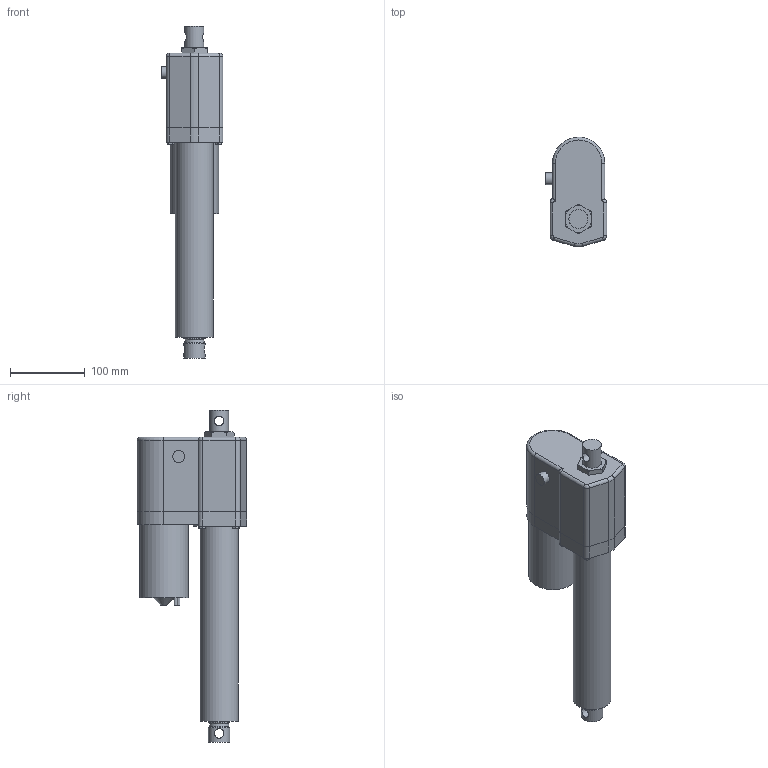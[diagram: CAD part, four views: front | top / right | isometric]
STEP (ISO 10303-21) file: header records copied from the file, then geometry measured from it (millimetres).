
FILE_DESCRIPTION (( 'STEP AP214' ), '1' );
FILE_NAME ('D12-05A5-08M0NPO-tollo.step', '2020-04-13T14:54:28', ( '' ), ( '' ), 'SwSTEP 2.0', 'SolidWorks 2010', '' );
FILE_SCHEMA (( 'AUTOMOTIVE_DESIGN' ));
Length unit declared in the file: millimetre
Products named in the file (6): Electrak-LA10-Motor-D12-05A5-08M0NPO-tollo_Electrak-LA10-Motor-D12-05A5-08M0NPO-tollo; Electrak-LA10-Rear-D12-05A5-08M0NPO-tollo_Electrak-LA10-Rear-D12-05A5-08M0NPO-tollo; Electrak-LA10-Tube-D12-05A5-08M0NPO-tollo_Electrak-LA10-Tube-D12-05A5-08M0NPO-tollo; Electrak-LA10-Rod-D12-05A5-08M0NPO-tollo_Electrak-LA10-Rod-D12-05A5-08M0NPO-tollo; Screw-M6S-M5-D12-05A5-08M0NPO-tollo_Screw-M6S-M5-D12-05A5-08M0NPO-tollo; D12-05A5-08M0NPO-tollo
Assembly tree (8 placements, depth 2):
  D12-05A5-08M0NPO-tollo
    Screw-M6S-M5-D12-05A5-08M0NPO-tollo_Screw-M6S-M5-D12-05A5-08M0NPO-tollo  x4
    Electrak-LA10-Motor-D12-05A5-08M0NPO-tollo_Electrak-LA10-Motor-D12-05A5-08M0NPO-tollo
    Electrak-LA10-Tube-D12-05A5-08M0NPO-tollo_Electrak-LA10-Tube-D12-05A5-08M0NPO-tollo
    Electrak-LA10-Rear-D12-05A5-08M0NPO-tollo_Electrak-LA10-Rear-D12-05A5-08M0NPO-tollo
    Electrak-LA10-Rod-D12-05A5-08M0NPO-tollo_Electrak-LA10-Rod-D12-05A5-08M0NPO-tollo
Bounding box: 82.72 x 147.19 x 445 mm (x, y, z)
Volume: 2035215.2 mm3; surface area: 213367.9 mm2
Topology: 8 solids, 8 shells, 193 faces, 439 edges, 283 vertices
Faces by surface type: plane 82, cylinder 77, cone 22, torus 12
Full cylindrical faces by diameter (mm): 4 x2, 4.126 x4, 4.8 x10, 5 x4, 7.878 x4, 12.8 x2, 16 x1, 25.4 x1, 28.6 x4, 51 x1, 65.3 x1
Entity records: 4139 total; most frequent: CARTESIAN_POINT 1139, DIRECTION 600, ORIENTED_EDGE 476, AXIS2_PLACEMENT_3D 251, EDGE_CURVE 238, EDGE_LOOP 188, VERTEX_POINT 174, FACE_OUTER_BOUND 149
